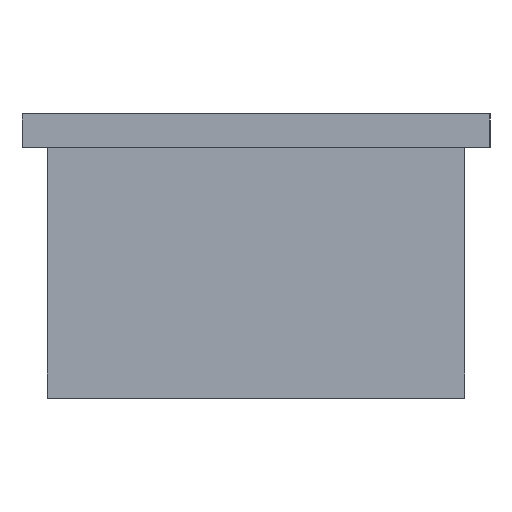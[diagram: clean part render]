
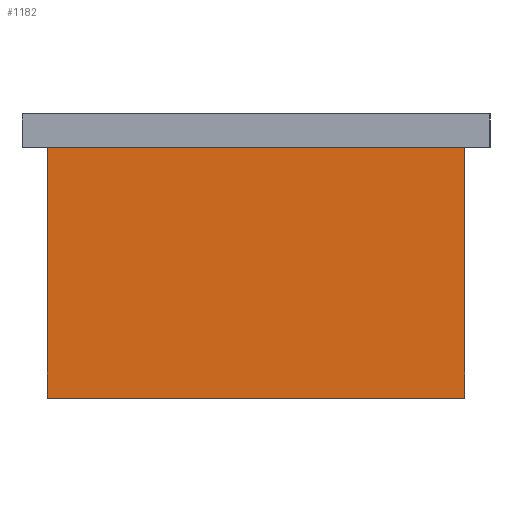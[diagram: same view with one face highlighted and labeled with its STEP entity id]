
A CAD part, left-side view. The second image highlights one B-rep face of the part: STEP entity #1182.
In plain terms, the highlighted planar face has unit normal (-1, 0, 0).
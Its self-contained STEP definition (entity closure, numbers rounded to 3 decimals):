
#543 = PLANE('',#544);
#544 = AXIS2_PLACEMENT_3D('',#545,#546,#547);
#545 = CARTESIAN_POINT('',(0.,0.,15.));
#546 = DIRECTION('',(-0.,-0.,-1.));
#547 = DIRECTION('',(-1.,0.,0.));
#891 = VERTEX_POINT('',#892);
#892 = CARTESIAN_POINT('',(-22.5,12.5,15.));
#908 = PLANE('',#909);
#909 = AXIS2_PLACEMENT_3D('',#910,#911,#912);
#910 = CARTESIAN_POINT('',(-22.5,12.5,0.));
#911 = DIRECTION('',(0.,1.,0.));
#912 = DIRECTION('',(1.,0.,0.));
#920 = EDGE_CURVE('',#921,#891,#923,.T.);
#921 = VERTEX_POINT('',#922);
#922 = CARTESIAN_POINT('',(-22.5,-12.5,15.));
#923 = SURFACE_CURVE('',#924,(#928,#935),.PCURVE_S1.);
#924 = LINE('',#925,#926);
#925 = CARTESIAN_POINT('',(-22.5,-12.5,15.));
#926 = VECTOR('',#927,1.);
#927 = DIRECTION('',(0.,1.,0.));
#928 = PCURVE('',#543,#929);
#929 = DEFINITIONAL_REPRESENTATION('',(#930),#934);
#930 = LINE('',#931,#932);
#931 = CARTESIAN_POINT('',(22.5,-12.5));
#932 = VECTOR('',#933,1.);
#933 = DIRECTION('',(0.,1.));
#934 = ( GEOMETRIC_REPRESENTATION_CONTEXT(2) 
PARAMETRIC_REPRESENTATION_CONTEXT() REPRESENTATION_CONTEXT('2D SPACE',''
  ) );
#935 = PCURVE('',#936,#941);
#936 = PLANE('',#937);
#937 = AXIS2_PLACEMENT_3D('',#938,#939,#940);
#938 = CARTESIAN_POINT('',(-22.5,-12.5,0.));
#939 = DIRECTION('',(-1.,0.,0.));
#940 = DIRECTION('',(0.,1.,0.));
#941 = DEFINITIONAL_REPRESENTATION('',(#942),#946);
#942 = LINE('',#943,#944);
#943 = CARTESIAN_POINT('',(0.,-15.));
#944 = VECTOR('',#945,1.);
#945 = DIRECTION('',(1.,0.));
#946 = ( GEOMETRIC_REPRESENTATION_CONTEXT(2) 
PARAMETRIC_REPRESENTATION_CONTEXT() REPRESENTATION_CONTEXT('2D SPACE',''
  ) );
#964 = PLANE('',#965);
#965 = AXIS2_PLACEMENT_3D('',#966,#967,#968);
#966 = CARTESIAN_POINT('',(22.5,-12.5,0.));
#967 = DIRECTION('',(0.,-1.,0.));
#968 = DIRECTION('',(-1.,0.,0.));
#1012 = EDGE_CURVE('',#1013,#891,#1015,.T.);
#1013 = VERTEX_POINT('',#1014);
#1014 = CARTESIAN_POINT('',(-22.5,12.5,0.));
#1015 = SURFACE_CURVE('',#1016,(#1020,#1027),.PCURVE_S1.);
#1016 = LINE('',#1017,#1018);
#1017 = CARTESIAN_POINT('',(-22.5,12.5,0.));
#1018 = VECTOR('',#1019,1.);
#1019 = DIRECTION('',(0.,0.,1.));
#1020 = PCURVE('',#908,#1021);
#1021 = DEFINITIONAL_REPRESENTATION('',(#1022),#1026);
#1022 = LINE('',#1023,#1024);
#1023 = CARTESIAN_POINT('',(0.,0.));
#1024 = VECTOR('',#1025,1.);
#1025 = DIRECTION('',(0.,-1.));
#1026 = ( GEOMETRIC_REPRESENTATION_CONTEXT(2) 
PARAMETRIC_REPRESENTATION_CONTEXT() REPRESENTATION_CONTEXT('2D SPACE',''
  ) );
#1027 = PCURVE('',#936,#1028);
#1028 = DEFINITIONAL_REPRESENTATION('',(#1029),#1033);
#1029 = LINE('',#1030,#1031);
#1030 = CARTESIAN_POINT('',(25.,0.));
#1031 = VECTOR('',#1032,1.);
#1032 = DIRECTION('',(0.,-1.));
#1033 = ( GEOMETRIC_REPRESENTATION_CONTEXT(2) 
PARAMETRIC_REPRESENTATION_CONTEXT() REPRESENTATION_CONTEXT('2D SPACE',''
  ) );
#1073 = PLANE('',#1074);
#1074 = AXIS2_PLACEMENT_3D('',#1075,#1076,#1077);
#1075 = CARTESIAN_POINT('',(0.,0.,0.));
#1076 = DIRECTION('',(-0.,-0.,-1.));
#1077 = DIRECTION('',(-1.,0.,0.));
#1139 = EDGE_CURVE('',#1140,#921,#1142,.T.);
#1140 = VERTEX_POINT('',#1141);
#1141 = CARTESIAN_POINT('',(-22.5,-12.5,0.));
#1142 = SURFACE_CURVE('',#1143,(#1147,#1154),.PCURVE_S1.);
#1143 = LINE('',#1144,#1145);
#1144 = CARTESIAN_POINT('',(-22.5,-12.5,0.));
#1145 = VECTOR('',#1146,1.);
#1146 = DIRECTION('',(0.,0.,1.));
#1147 = PCURVE('',#964,#1148);
#1148 = DEFINITIONAL_REPRESENTATION('',(#1149),#1153);
#1149 = LINE('',#1150,#1151);
#1150 = CARTESIAN_POINT('',(45.,0.));
#1151 = VECTOR('',#1152,1.);
#1152 = DIRECTION('',(0.,-1.));
#1153 = ( GEOMETRIC_REPRESENTATION_CONTEXT(2) 
PARAMETRIC_REPRESENTATION_CONTEXT() REPRESENTATION_CONTEXT('2D SPACE',''
  ) );
#1154 = PCURVE('',#936,#1155);
#1155 = DEFINITIONAL_REPRESENTATION('',(#1156),#1160);
#1156 = LINE('',#1157,#1158);
#1157 = CARTESIAN_POINT('',(0.,0.));
#1158 = VECTOR('',#1159,1.);
#1159 = DIRECTION('',(0.,-1.));
#1160 = ( GEOMETRIC_REPRESENTATION_CONTEXT(2) 
PARAMETRIC_REPRESENTATION_CONTEXT() REPRESENTATION_CONTEXT('2D SPACE',''
  ) );
#1182 = ADVANCED_FACE('',(#1183),#936,.T.);
#1183 = FACE_BOUND('',#1184,.T.);
#1184 = EDGE_LOOP('',(#1185,#1186,#1187,#1188));
#1185 = ORIENTED_EDGE('',*,*,#1139,.T.);
#1186 = ORIENTED_EDGE('',*,*,#920,.T.);
#1187 = ORIENTED_EDGE('',*,*,#1012,.F.);
#1188 = ORIENTED_EDGE('',*,*,#1189,.F.);
#1189 = EDGE_CURVE('',#1140,#1013,#1190,.T.);
#1190 = SURFACE_CURVE('',#1191,(#1195,#1202),.PCURVE_S1.);
#1191 = LINE('',#1192,#1193);
#1192 = CARTESIAN_POINT('',(-22.5,-12.5,0.));
#1193 = VECTOR('',#1194,1.);
#1194 = DIRECTION('',(0.,1.,0.));
#1195 = PCURVE('',#936,#1196);
#1196 = DEFINITIONAL_REPRESENTATION('',(#1197),#1201);
#1197 = LINE('',#1198,#1199);
#1198 = CARTESIAN_POINT('',(0.,0.));
#1199 = VECTOR('',#1200,1.);
#1200 = DIRECTION('',(1.,0.));
#1201 = ( GEOMETRIC_REPRESENTATION_CONTEXT(2) 
PARAMETRIC_REPRESENTATION_CONTEXT() REPRESENTATION_CONTEXT('2D SPACE',''
  ) );
#1202 = PCURVE('',#1073,#1203);
#1203 = DEFINITIONAL_REPRESENTATION('',(#1204),#1208);
#1204 = LINE('',#1205,#1206);
#1205 = CARTESIAN_POINT('',(22.5,-12.5));
#1206 = VECTOR('',#1207,1.);
#1207 = DIRECTION('',(0.,1.));
#1208 = ( GEOMETRIC_REPRESENTATION_CONTEXT(2) 
PARAMETRIC_REPRESENTATION_CONTEXT() REPRESENTATION_CONTEXT('2D SPACE',''
  ) );
